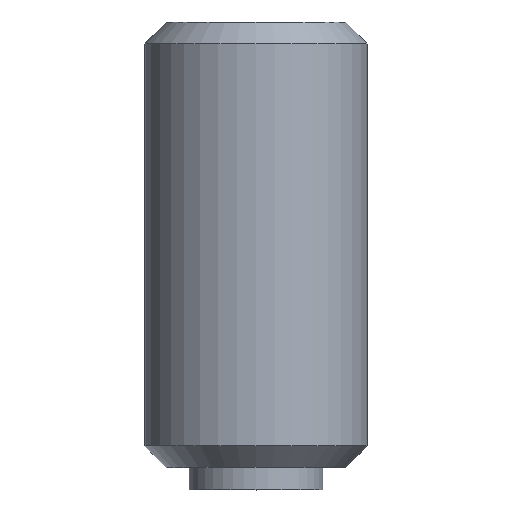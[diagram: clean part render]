
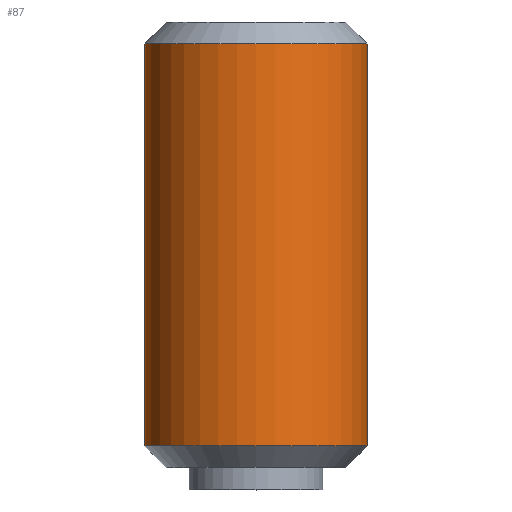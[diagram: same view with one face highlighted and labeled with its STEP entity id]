
A CAD part, top view. The second image highlights one B-rep face of the part: STEP entity #87.
In plain terms, the highlighted cylindrical face has radius 2.5 mm (diameter 5 mm), a full revolution.
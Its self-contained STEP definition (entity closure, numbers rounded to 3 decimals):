
#87 = ADVANCED_FACE( '', ( #118, #119 ), #120, .T. );
#118 = FACE_OUTER_BOUND( '', #152, .T. );
#119 = FACE_OUTER_BOUND( '', #153, .T. );
#120 = CYLINDRICAL_SURFACE( '', #154, 2.5 );
#152 = EDGE_LOOP( '', ( #238 ) );
#153 = EDGE_LOOP( '', ( #239 ) );
#154 = AXIS2_PLACEMENT_3D( '', #240, #241, #242 );
#238 = ORIENTED_EDGE( '', *, *, #270, .F. );
#239 = ORIENTED_EDGE( '', *, *, #271, .T. );
#240 = CARTESIAN_POINT( '', ( 0., 0., 0. ) );
#241 = DIRECTION( '', ( 0., 1., 0. ) );
#242 = DIRECTION( '', ( 0., 0., -1. ) );
#270 = EDGE_CURVE( '', #310, #310, #311, .T. );
#271 = EDGE_CURVE( '', #312, #312, #313, .T. );
#310 = VERTEX_POINT( '', #370 );
#311 = CIRCLE( '', #371, 2.5 );
#312 = VERTEX_POINT( '', #372 );
#313 = CIRCLE( '', #373, 2.5 );
#370 = CARTESIAN_POINT( '', ( 0., 0.991, -2.5 ) );
#371 = AXIS2_PLACEMENT_3D( '', #404, #405, #406 );
#372 = CARTESIAN_POINT( '', ( 0., 10.01, -2.5 ) );
#373 = AXIS2_PLACEMENT_3D( '', #407, #408, #409 );
#404 = CARTESIAN_POINT( '', ( 0., 0.991, 0. ) );
#405 = DIRECTION( '', ( 0., -1., 0. ) );
#406 = DIRECTION( '', ( 0., 0., -1. ) );
#407 = CARTESIAN_POINT( '', ( 0., 10.01, 0. ) );
#408 = DIRECTION( '', ( 0., -1., 0. ) );
#409 = DIRECTION( '', ( 0., 0., -1. ) );
